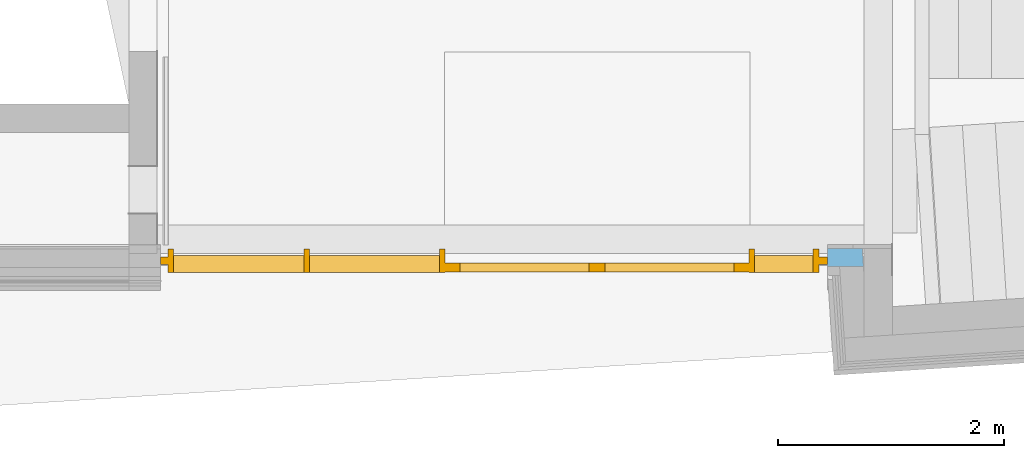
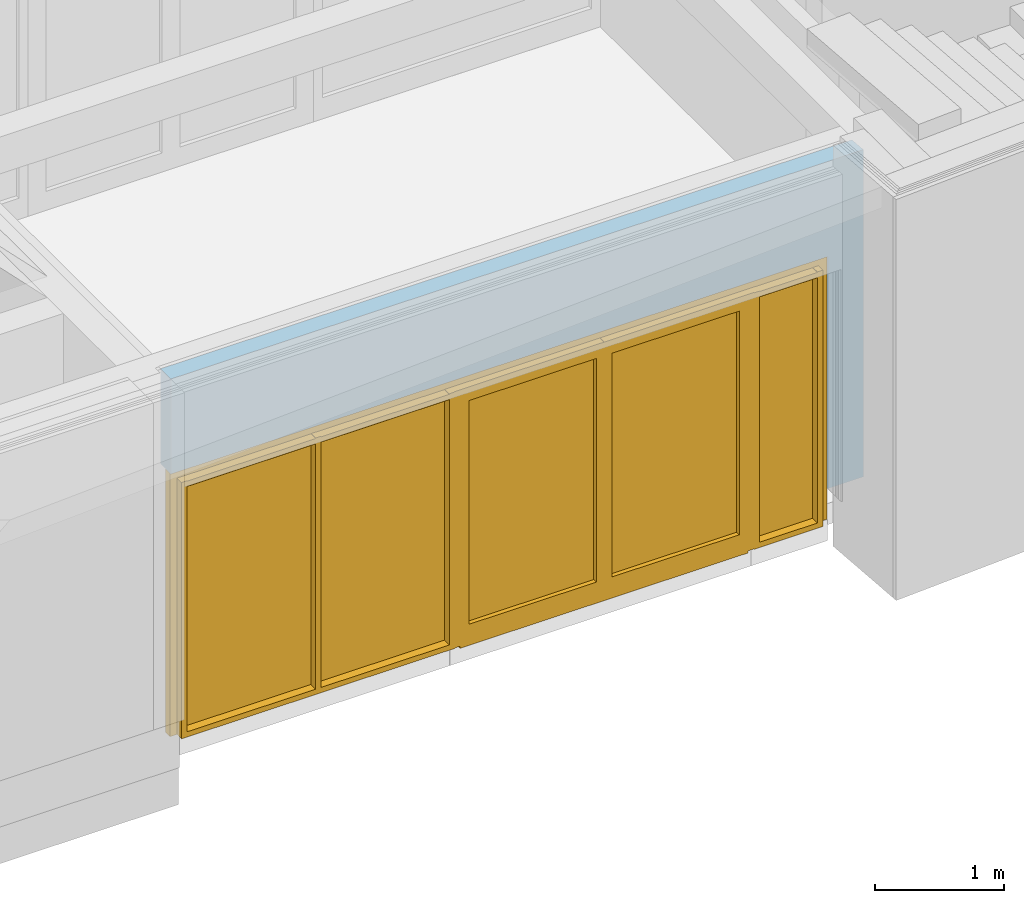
# One storey, part 93 of 207: 1 door, 1 opening, plus 1 element that does not belong to this part.
"""IFC4 building model written with IfcOpenShell, lengths in metres."""

from ifc_helpers import new_model, entity, si_unit, converted_unit, derived_unit, frame, origin, origin_with_axes, place, context, subcontext, project, spatial, polyline, outline, extrude, closed_shell, open_shell, surface_model, source, transform, mapped, material, element, fill, save


model = new_model("IFC4")

# Units and contexts
model_context = context("Model", 3, precision=1e-05, world=origin())
body_context = subcontext(model_context, "Body", "Model", "MODEL_VIEW")
ifc_project = project(units=[si_unit("LENGTHUNIT", "METRE"), si_unit("AREAUNIT", "SQUARE_METRE"), si_unit("VOLUMEUNIT", "CUBIC_METRE"), si_unit("MASSUNIT", "GRAM", prefix="KILO"), converted_unit("PLANEANGLEUNIT", "DEGREE", entity("IfcPlaneAngleMeasure", 0.0174532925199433), si_unit("PLANEANGLEUNIT", "RADIAN"), dimensions=[0, 0, 0, 0, 0, 0, 0]), derived_unit("THERMALTRANSMITTANCEUNIT", [(si_unit("POWERUNIT", "WATT"), 1), (si_unit("THERMODYNAMICTEMPERATUREUNIT", "KELVIN"), -1), (si_unit("LENGTHUNIT", "METRE"), -2)]), derived_unit("VOLUMETRICFLOWRATEUNIT", [(si_unit("LENGTHUNIT", "METRE"), 3), (converted_unit("TIMEUNIT", "hour", entity("IfcTimeMeasure", 3600.0), si_unit("TIMEUNIT", "SECOND"), dimensions=[0, 0, 1, 0, 0, 0, 0]), -1), (si_unit("LENGTHUNIT", "METRE"), -1)])], contexts=[model_context])

# Site, building, storey
site_placement = place(None, origin())
site = spatial("IfcSite", under=ifc_project, at=site_placement, Name="Psychiatrie Neubau Wunstorf", CompositionType="ELEMENT")
building_placement = place(site_placement, origin())
building = spatial("IfcBuilding", under=site, at=building_placement, Name="Neubau H2 Stationsgebäude", CompositionType="ELEMENT")
storey_placement = place(building_placement, frame((0.0, 0.0, -0.2)))
storey = spatial("IfcBuildingStorey", under=building, at=storey_placement, Name="H2 Ebene 0", CompositionType="ELEMENT", Elevation=-0.2)

# Wall, opening, door
ifc_material_1 = material(Name="WA-HD")
wall_placement = place(storey_placement, frame((56.7776591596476, -6.150000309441, 0.5), z_axis=(0.0, 0.0, 1.0), x_axis=(-1.0, 5.86992362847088e-16, 0.0)))
wall = element("IfcWall", 1, at=wall_placement, inside=storey, material=ifc_material_1, context=body_context, shape_type="SweptSolid", body=[
    extrude(outline(polyline([(-6.19765952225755, -0.160000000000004), (0.0, -0.160000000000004), (0.0, 0.0), (-6.20792630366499, 0.0), (-6.19765952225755, -0.160000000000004)])), frame((6.19765952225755, 0.160000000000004, 0.0), z_axis=(0.0, 0.0, 1.0), x_axis=(1.0, 0.0, 0.0)), (0.0, 0.0, 1.0), 3.1),
])
opening_placement = place(wall_placement, frame((0.307659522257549, 0.0, -0.5), z_axis=(-7.105427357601e-16, 1.0, 0.0), x_axis=(0.0, 0.0, 1.0)))
opening = element("IfcOpeningElement", 2, at=opening_placement, cuts=wall, Name="Türöffnung", ObjectType="Opening", context=body_context, shape_type="SweptSolid", body=[
    extrude(outline(polyline([(2.7, 5.89), (2.7, 0.0), (0.0, 0.0), (0.0, 5.89), (2.7, 5.89)])), origin_with_axes(), (0.0, 0.0, 1.0), 0.16),
])
ifc_material_2 = material(Name="TA-2F-AG-D-2S")
shared_shape = source(origin_with_axes(), body_context, "Body", "SurfaceModel", [
    surface_model("IfcShellBasedSurfaceModel", [(5.89, 0.00050000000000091, 2.7), (5.89, 0.00050000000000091, 0.2), (5.81, 0.00050000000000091, 0.2), (5.81, 0.00050000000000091, 2.7), (5.89, 0.0705000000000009, 0.2), (5.89, 0.0705000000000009, 2.7), (5.81, 0.0705000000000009, 2.7), (5.81, 0.0705000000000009, 0.2)], [closed_shell([[[0, 1, 2, 3]], [[4, 5, 6, 7]], [[1, 0, 5, 4]], [[2, 1, 4, 7]], [[3, 2, 7, 6]], [[0, 3, 6, 5]]], orient=[[False], [False], [False], [False], [False], [False]])]),
    surface_model("IfcShellBasedSurfaceModel", [(0.08, 0.0005, 2.7), (0.08, 0.00050000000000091, 0.2), (0.0, 0.00050000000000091, 0.2), (0.0, 0.0005, 2.7), (0.08, 0.0705000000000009, 0.2), (0.08, 0.0705, 2.7), (0.0, 0.0705, 2.7), (0.0, 0.0705000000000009, 0.2)], [closed_shell([[[0, 1, 2, 3]], [[4, 5, 6, 7]], [[1, 0, 5, 4]], [[2, 1, 4, 7]], [[3, 2, 7, 6]], [[0, 3, 6, 5]]], orient=[[False], [False], [False], [False], [False], [False]])]),
    surface_model("IfcShellBasedSurfaceModel", [(5.81, 0.00050000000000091, 2.7), (5.81, 0.00050000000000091, 2.63), (0.08, 0.0005, 2.63), (0.08, 0.0005, 2.7), (5.81, 0.0705000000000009, 2.63), (5.81, 0.0705000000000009, 2.7), (0.08, 0.0705, 2.7), (0.08, 0.0705, 2.63)], [closed_shell([[[0, 1, 2, 3]], [[4, 5, 6, 7]], [[1, 0, 5, 4]], [[2, 1, 4, 7]], [[3, 2, 7, 6]], [[0, 3, 6, 5]]], orient=[[False], [False], [False], [False], [False], [False]])]),
    surface_model("IfcShellBasedSurfaceModel", [(5.82641356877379, -0.0694999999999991, 2.63), (5.82641356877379, -0.0694999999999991, 0.2), (5.77641356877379, -0.0694999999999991, 0.2), (5.77641356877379, -0.0694999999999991, 2.63), (5.82641356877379, 0.140500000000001, 0.2), (5.82641356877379, 0.140500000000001, 2.63), (5.77641356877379, 0.140500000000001, 2.63), (5.77641356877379, 0.140500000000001, 0.2)], [closed_shell([[[0, 1, 2, 3]], [[4, 5, 6, 7]], [[1, 0, 5, 4]], [[2, 1, 4, 7]], [[3, 2, 7, 6]], [[0, 3, 6, 5]]], orient=[[False], [False], [False], [False], [False], [False]])]),
    surface_model("IfcShellBasedSurfaceModel", [(4.62378280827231, -0.0695, 2.63), (4.62378280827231, -0.0695, 0.2), (4.57378280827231, -0.0695, 0.2), (4.57378280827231, -0.0695, 2.63), (4.62378280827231, 0.1405, 0.2), (4.62378280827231, 0.1405, 2.63), (4.57378280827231, 0.1405, 2.63), (4.57378280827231, 0.1405, 0.2)], [closed_shell([[[0, 1, 2, 3]], [[4, 5, 6, 7]], [[1, 0, 5, 4]], [[2, 1, 4, 7]], [[3, 2, 7, 6]], [[0, 3, 6, 5]]], orient=[[False], [False], [False], [False], [False], [False]])]),
    surface_model("IfcShellBasedSurfaceModel", [(3.42564573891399, -0.0695, 2.63), (3.42564573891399, -0.0694999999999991, 0.2), (3.37564573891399, -0.0694999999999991, 0.2), (3.37564573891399, -0.0695, 2.63), (3.42564573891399, 0.140500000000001, 0.2), (3.42564573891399, 0.1405, 2.63), (3.37564573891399, 0.1405, 2.63), (3.37564573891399, 0.140500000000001, 0.2)], [closed_shell([[[0, 1, 2, 3]], [[4, 5, 6, 7]], [[1, 0, 5, 4]], [[2, 1, 4, 7]], [[3, 2, 7, 6]], [[0, 3, 6, 5]]], orient=[[False], [False], [False], [False], [False], [False]])]),
    surface_model("IfcShellBasedSurfaceModel", [(0.693656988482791, -0.0695, 2.63), (0.693656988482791, -0.0695, 0.2), (0.643656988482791, -0.0695, 0.2), (0.643656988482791, -0.0695, 2.63), (0.693656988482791, 0.1405, 0.2), (0.693656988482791, 0.1405, 2.63), (0.643656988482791, 0.1405, 2.63), (0.643656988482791, 0.1405, 0.2)], [closed_shell([[[0, 1, 2, 3]], [[4, 5, 6, 7]], [[1, 0, 5, 4]], [[2, 1, 4, 7]], [[3, 2, 7, 6]], [[0, 3, 6, 5]]], orient=[[False], [False], [False], [False], [False], [False]])]),
    surface_model("IfcShellBasedSurfaceModel", [(0.125873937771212, -0.0695, 2.63), (0.125873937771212, -0.0694999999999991, 0.2), (0.0758739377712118, -0.0694999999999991, 0.2), (0.0758739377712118, -0.0695, 2.63), (0.125873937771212, 0.1405, 0.2), (0.125873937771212, 0.1405, 2.63), (0.0758739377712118, 0.1405, 2.63), (0.0758739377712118, 0.140500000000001, 0.2)], [closed_shell([[[0, 1, 2, 3]], [[4, 5, 6, 7]], [[1, 0, 5, 4]], [[2, 1, 4, 7]], [[3, 2, 7, 6]], [[0, 3, 6, 5]]], orient=[[False], [False], [False], [False], [False], [False]])]),
    surface_model("IfcShellBasedSurfaceModel", [(5.77641356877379, -0.00949999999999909, 0.25000000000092), (5.77641356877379, -0.00949999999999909, 0.20000000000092), (4.62378280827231, -0.0095, 0.20000000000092), (4.62378280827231, -0.0095, 0.25000000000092), (5.77641356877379, 0.140500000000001, 0.20000000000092), (5.77641356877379, 0.140500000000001, 0.25000000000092), (4.62378280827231, 0.1405, 0.25000000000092), (4.62378280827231, 0.1405, 0.20000000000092)], [closed_shell([[[0, 1, 2, 3]], [[4, 5, 6, 7]], [[1, 0, 5, 4]], [[2, 1, 4, 7]], [[3, 2, 7, 6]], [[0, 3, 6, 5]]], orient=[[False], [False], [False], [False], [False], [False]])]),
    surface_model("IfcShellBasedSurfaceModel", [(5.77641356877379, -0.00949999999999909, 2.62500000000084), (5.77641356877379, -0.00949999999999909, 2.57500000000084), (4.62378280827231, -0.0095, 2.57500000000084), (4.62378280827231, -0.0095, 2.62500000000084), (5.77641356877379, 0.140500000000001, 2.57500000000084), (5.77641356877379, 0.140500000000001, 2.62500000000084), (4.62378280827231, 0.1405, 2.62500000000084), (4.62378280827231, 0.1405, 2.57500000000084)], [closed_shell([[[0, 1, 2, 3]], [[4, 5, 6, 7]], [[1, 0, 5, 4]], [[2, 1, 4, 7]], [[3, 2, 7, 6]], [[0, 3, 6, 5]]], orient=[[False], [False], [False], [False], [False], [False]])]),
    surface_model("IfcShellBasedSurfaceModel", [(4.57378280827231, -0.0095, 0.25000000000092), (4.57378280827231, -0.0095, 0.20000000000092), (3.42564573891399, -0.00949999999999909, 0.20000000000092), (3.42564573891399, -0.00949999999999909, 0.25000000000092), (4.57378280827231, 0.1405, 0.20000000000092), (4.57378280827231, 0.1405, 0.25000000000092), (3.42564573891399, 0.140500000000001, 0.25000000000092), (3.42564573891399, 0.140500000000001, 0.20000000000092)], [closed_shell([[[0, 1, 2, 3]], [[4, 5, 6, 7]], [[1, 0, 5, 4]], [[2, 1, 4, 7]], [[3, 2, 7, 6]], [[0, 3, 6, 5]]], orient=[[False], [False], [False], [False], [False], [False]])]),
    surface_model("IfcShellBasedSurfaceModel", [(4.57378280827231, -0.0095, 2.62500000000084), (4.57378280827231, -0.0095, 2.57500000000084), (3.42564573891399, -0.0095, 2.57500000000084), (3.42564573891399, -0.0095, 2.62500000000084), (4.57378280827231, 0.1405, 2.57500000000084), (4.57378280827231, 0.1405, 2.62500000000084), (3.42564573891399, 0.1405, 2.62500000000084), (3.42564573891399, 0.1405, 2.57500000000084)], [closed_shell([[[0, 1, 2, 3]], [[4, 5, 6, 7]], [[1, 0, 5, 4]], [[2, 1, 4, 7]], [[3, 2, 7, 6]], [[0, 3, 6, 5]]], orient=[[False], [False], [False], [False], [False], [False]])]),
    surface_model("IfcShellBasedSurfaceModel", [(0.643656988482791, -0.0095, 0.25000000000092), (0.643656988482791, -0.0095, 0.20000000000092), (0.125873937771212, -0.00949999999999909, 0.20000000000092), (0.125873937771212, -0.00949999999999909, 0.25000000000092), (0.643656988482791, 0.1405, 0.20000000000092), (0.643656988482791, 0.1405, 0.25000000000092), (0.125873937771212, 0.1405, 0.25000000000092), (0.125873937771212, 0.1405, 0.20000000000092)], [closed_shell([[[0, 1, 2, 3]], [[4, 5, 6, 7]], [[1, 0, 5, 4]], [[2, 1, 4, 7]], [[3, 2, 7, 6]], [[0, 3, 6, 5]]], orient=[[False], [False], [False], [False], [False], [False]])]),
    surface_model("IfcShellBasedSurfaceModel", [(0.643656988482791, -0.0095, 2.62500000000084), (0.643656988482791, -0.0095, 2.57500000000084), (0.125873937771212, -0.0095, 2.57500000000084), (0.125873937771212, -0.0095, 2.62500000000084), (0.643656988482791, 0.1405, 2.57500000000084), (0.643656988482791, 0.1405, 2.62500000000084), (0.125873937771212, 0.1405, 2.62500000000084), (0.125873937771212, 0.1405, 2.57500000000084)], [closed_shell([[[0, 1, 2, 3]], [[4, 5, 6, 7]], [[1, 0, 5, 4]], [[2, 1, 4, 7]], [[3, 2, 7, 6]], [[0, 3, 6, 5]]], orient=[[False], [False], [False], [False], [False], [False]])]),
    surface_model("IfcShellBasedSurfaceModel", [(3.37564573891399, 0.0555, 2.63), (3.37564573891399, 0.0555000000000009, 0.2), (3.32564573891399, 0.0555000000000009, 0.2), (3.32564573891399, 0.0555, 2.63), (3.37564573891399, 0.135500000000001, 0.2), (3.37564573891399, 0.1355, 2.63), (3.32564573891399, 0.1355, 2.63), (3.32564573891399, 0.135500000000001, 0.2)], [closed_shell([[[0, 1, 2, 3]], [[4, 5, 6, 7]], [[1, 0, 5, 4]], [[2, 1, 4, 7]], [[3, 2, 7, 6]], [[0, 3, 6, 5]]], orient=[[False], [False], [False], [False], [False], [False]])]),
    surface_model("IfcShellBasedSurfaceModel", [(3.32564573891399, 0.0555, 2.63), (3.32564573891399, 0.0555, 2.58), (2.03515136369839, 0.0555000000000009, 2.58), (2.03515136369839, 0.0555000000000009, 2.63), (3.32564573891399, 0.1355, 2.58), (3.32564573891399, 0.1355, 2.63), (2.03515136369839, 0.135500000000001, 2.63), (2.03515136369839, 0.135500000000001, 2.58)], [closed_shell([[[0, 1, 2, 3]], [[4, 5, 6, 7]], [[1, 0, 5, 4]], [[2, 1, 4, 7]], [[3, 2, 7, 6]], [[0, 3, 6, 5]]], orient=[[False], [False], [False], [False], [False], [False]])]),
    surface_model("IfcShellBasedSurfaceModel", [(0.743656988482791, 0.0555, 2.63), (0.743656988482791, 0.0555, 0.2), (0.693656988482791, 0.0555, 0.2), (0.693656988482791, 0.0555, 2.63), (0.743656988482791, 0.1355, 0.2), (0.743656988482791, 0.1355, 2.63), (0.693656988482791, 0.1355, 2.63), (0.693656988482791, 0.1355, 0.2)], [closed_shell([[[0, 1, 2, 3]], [[4, 5, 6, 7]], [[1, 0, 5, 4]], [[2, 1, 4, 7]], [[3, 2, 7, 6]], [[0, 3, 6, 5]]], orient=[[False], [False], [False], [False], [False], [False]])]),
    surface_model("IfcShellBasedSurfaceModel", [(2.03415136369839, 0.0555000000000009, 2.63), (2.03415136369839, 0.0555000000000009, 2.58), (0.743656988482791, 0.0555, 2.58), (0.743656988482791, 0.0555, 2.63), (2.03415136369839, 0.135500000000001, 2.58), (2.03415136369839, 0.135500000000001, 2.63), (0.743656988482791, 0.1355, 2.63), (0.743656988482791, 0.1355, 2.58)], [closed_shell([[[0, 1, 2, 3]], [[4, 5, 6, 7]], [[1, 0, 5, 4]], [[2, 1, 4, 7]], [[3, 2, 7, 6]], [[0, 3, 6, 5]]], orient=[[False], [False], [False], [False], [False], [False]])]),
    surface_model("IfcShellBasedSurfaceModel", [(3.32564573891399, 0.0555, 2.58), (3.32564573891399, 0.0555000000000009, 0.18), (3.24564573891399, 0.0555000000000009, 0.18), (3.24564573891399, 0.0555, 2.58), (3.32564573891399, 0.135500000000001, 0.18), (3.32564573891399, 0.1355, 2.58), (3.24564573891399, 0.1355, 2.58), (3.24564573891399, 0.135500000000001, 0.18)], [closed_shell([[[0, 1, 2, 3]], [[4, 5, 6, 7]], [[1, 0, 5, 4]], [[2, 1, 4, 7]], [[3, 2, 7, 6]], [[0, 3, 6, 5]]], orient=[[False], [False], [False], [False], [False], [False]])]),
    surface_model("IfcShellBasedSurfaceModel", [(2.10515136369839, 0.0555000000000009, 2.58), (2.10515136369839, 0.0555000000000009, 0.18), (2.02515136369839, 0.0555000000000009, 0.18), (2.02515136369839, 0.0555000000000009, 2.58), (2.10515136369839, 0.135500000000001, 0.18), (2.10515136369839, 0.135500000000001, 2.58), (2.02515136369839, 0.135500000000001, 2.58), (2.02515136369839, 0.135500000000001, 0.18)], [closed_shell([[[0, 1, 2, 3]], [[4, 5, 6, 7]], [[1, 0, 5, 4]], [[2, 1, 4, 7]], [[3, 2, 7, 6]], [[0, 3, 6, 5]]], orient=[[False], [False], [False], [False], [False], [False]])]),
    surface_model("IfcShellBasedSurfaceModel", [(3.24564573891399, 0.0555000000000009, 0.38), (3.24564573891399, 0.0555000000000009, 0.18), (2.10515136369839, 0.0555000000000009, 0.18), (2.10515136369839, 0.0555000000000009, 0.38), (3.24564573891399, 0.135500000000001, 0.18), (3.24564573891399, 0.135500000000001, 0.38), (2.10515136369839, 0.135500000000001, 0.38), (2.10515136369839, 0.135500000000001, 0.18)], [closed_shell([[[0, 1, 2, 3]], [[4, 5, 6, 7]], [[1, 0, 5, 4]], [[2, 1, 4, 7]], [[3, 2, 7, 6]], [[0, 3, 6, 5]]], orient=[[False], [False], [False], [False], [False], [False]])]),
    surface_model("IfcShellBasedSurfaceModel", [(3.24564573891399, 0.0555, 2.58), (3.24564573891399, 0.0555, 2.5), (2.10515136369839, 0.0555000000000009, 2.5), (2.10515136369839, 0.0555000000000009, 2.58), (3.24564573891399, 0.1355, 2.5), (3.24564573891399, 0.1355, 2.58), (2.10515136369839, 0.135500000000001, 2.58), (2.10515136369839, 0.135500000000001, 2.5)], [closed_shell([[[0, 1, 2, 3]], [[4, 5, 6, 7]], [[1, 0, 5, 4]], [[2, 1, 4, 7]], [[3, 2, 7, 6]], [[0, 3, 6, 5]]], orient=[[False], [False], [False], [False], [False], [False]])]),
    surface_model("IfcShellBasedSurfaceModel", [(2.04415136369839, 0.0555000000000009, 2.58), (2.04415136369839, 0.0555000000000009, 0.18), (1.96415136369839, 0.0555, 0.18), (1.96415136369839, 0.0555, 2.58), (2.04415136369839, 0.135500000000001, 0.18), (2.04415136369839, 0.135500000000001, 2.58), (1.96415136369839, 0.1355, 2.58), (1.96415136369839, 0.1355, 0.18)], [closed_shell([[[0, 1, 2, 3]], [[4, 5, 6, 7]], [[1, 0, 5, 4]], [[2, 1, 4, 7]], [[3, 2, 7, 6]], [[0, 3, 6, 5]]], orient=[[False], [False], [False], [False], [False], [False]])]),
    surface_model("IfcShellBasedSurfaceModel", [(0.823656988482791, 0.0555, 2.58), (0.823656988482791, 0.0555, 0.18), (0.743656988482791, 0.0555, 0.18), (0.743656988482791, 0.0555, 2.58), (0.823656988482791, 0.1355, 0.18), (0.823656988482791, 0.1355, 2.58), (0.743656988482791, 0.1355, 2.58), (0.743656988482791, 0.1355, 0.18)], [closed_shell([[[0, 1, 2, 3]], [[4, 5, 6, 7]], [[1, 0, 5, 4]], [[2, 1, 4, 7]], [[3, 2, 7, 6]], [[0, 3, 6, 5]]], orient=[[False], [False], [False], [False], [False], [False]])]),
    surface_model("IfcShellBasedSurfaceModel", [(1.96415136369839, 0.0555, 0.38), (1.96415136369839, 0.0555, 0.18), (0.823656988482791, 0.0555, 0.18), (0.823656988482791, 0.0555, 0.38), (1.96415136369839, 0.1355, 0.18), (1.96415136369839, 0.1355, 0.38), (0.823656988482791, 0.1355, 0.38), (0.823656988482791, 0.1355, 0.18)], [closed_shell([[[0, 1, 2, 3]], [[4, 5, 6, 7]], [[1, 0, 5, 4]], [[2, 1, 4, 7]], [[3, 2, 7, 6]], [[0, 3, 6, 5]]], orient=[[False], [False], [False], [False], [False], [False]])]),
    surface_model("IfcShellBasedSurfaceModel", [(1.96415136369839, 0.0555, 2.58), (1.96415136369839, 0.0555, 2.5), (0.823656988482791, 0.0555, 2.5), (0.823656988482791, 0.0555, 2.58), (1.96415136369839, 0.1355, 2.5), (1.96415136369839, 0.1355, 2.58), (0.823656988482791, 0.1355, 2.58), (0.823656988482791, 0.1355, 2.5)], [closed_shell([[[0, 1, 2, 3]], [[4, 5, 6, 7]], [[1, 0, 5, 4]], [[2, 1, 4, 7]], [[3, 2, 7, 6]], [[0, 3, 6, 5]]], orient=[[False], [False], [False], [False], [False], [False]])]),
    surface_model("IfcShellBasedSurfaceModel", [(1.96415136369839, 0.0955, 0.38), (0.823656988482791, 0.0955, 0.38), (0.823656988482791, 0.0955, 2.5), (1.96415136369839, 0.0955, 2.5)], [open_shell([[[0, 1, 2, 3]]], orient=[[False]])]),
    surface_model("IfcShellBasedSurfaceModel", [(3.24564573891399, 0.0955000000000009, 0.38), (2.10515136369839, 0.0955000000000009, 0.38), (2.10515136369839, 0.0955000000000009, 2.5), (3.24564573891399, 0.0955, 2.5)], [open_shell([[[0, 1, 2, 3]]], orient=[[False]])]),
    surface_model("IfcShellBasedSurfaceModel", [(5.77641356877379, 0.0655000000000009, 0.25000000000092), (4.62378280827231, 0.0655, 0.25000000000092), (4.62378280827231, 0.0655, 2.57500000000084), (5.77641356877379, 0.0655000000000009, 2.57500000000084)], [open_shell([[[0, 1, 2, 3]]], orient=[[False]])]),
    surface_model("IfcShellBasedSurfaceModel", [(5.77641356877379, 0.0655000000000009, 2.62500000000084), (4.62378280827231, 0.0655, 2.62500000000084), (4.62378280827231, 0.0655, 2.63), (5.77641356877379, 0.0655000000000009, 2.63)], [open_shell([[[0, 1, 2, 3]]], orient=[[False]])]),
    surface_model("IfcShellBasedSurfaceModel", [(4.57378280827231, 0.0655, 0.25000000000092), (3.42564573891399, 0.0655000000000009, 0.25000000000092), (3.42564573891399, 0.0655, 2.57500000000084), (4.57378280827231, 0.0655, 2.57500000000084)], [open_shell([[[0, 1, 2, 3]]], orient=[[False]])]),
    surface_model("IfcShellBasedSurfaceModel", [(4.57378280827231, 0.0655, 2.62500000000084), (3.42564573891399, 0.0655, 2.62500000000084), (3.42564573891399, 0.0655, 2.63), (4.57378280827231, 0.0655, 2.63)], [open_shell([[[0, 1, 2, 3]]], orient=[[False]])]),
    surface_model("IfcShellBasedSurfaceModel", [(0.643656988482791, 0.0655, 0.25000000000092), (0.125873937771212, 0.0655000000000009, 0.25000000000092), (0.125873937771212, 0.0655, 2.57500000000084), (0.643656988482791, 0.0655, 2.57500000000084)], [open_shell([[[0, 1, 2, 3]]], orient=[[False]])]),
    surface_model("IfcShellBasedSurfaceModel", [(0.643656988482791, 0.0655, 2.62500000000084), (0.125873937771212, 0.0655, 2.62500000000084), (0.125873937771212, 0.0655, 2.63), (0.643656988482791, 0.0655, 2.63)], [open_shell([[[0, 1, 2, 3]]], orient=[[False]])]),
])
door_placement = place(opening_placement, frame((0.0, 0.0, 0.074), z_axis=(1.0, 0.0, 0.0), x_axis=(0.0, 1.0, -4.32377096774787e-16)))
door = element("IfcDoor", 3, at=door_placement, inside=storey, material=ifc_material_2, Name="SMT", OperationType="USERDEFINED", OverallHeight=2.7, OverallWidth=5.89, PredefinedType="DOOR", context=body_context, shape_type="MappedRepresentation", body=[
    mapped(shared_shape, transform((0.0, 0.0, 0.0), x_axis=(1.0, 0.0, 0.0), y_axis=(0.0, 1.0, 0.0), z_axis=(0.0, 0.0, 1.0), scale=1.0)),
])
fill(opening, door)

save(model, "model.ifc")
